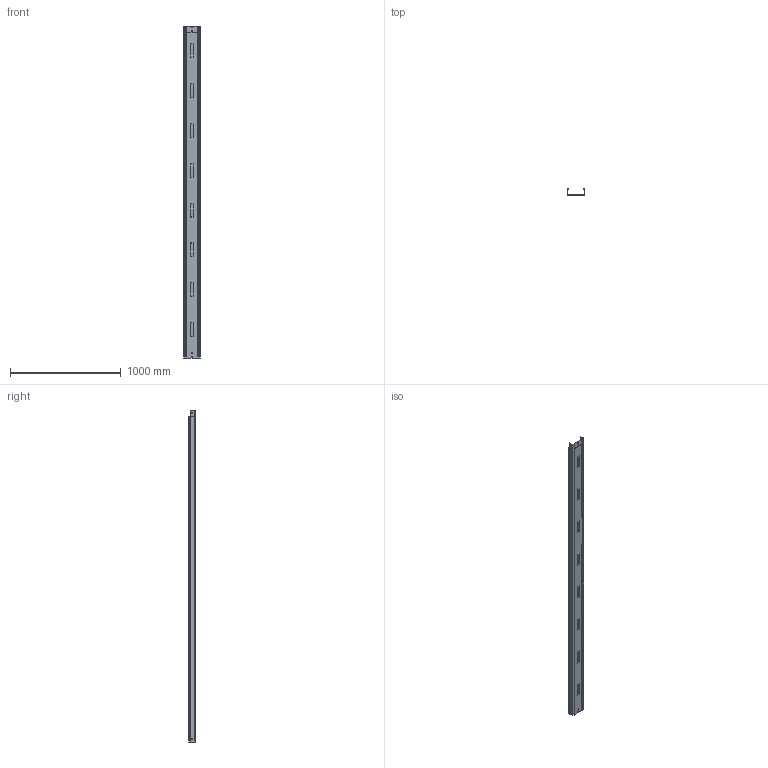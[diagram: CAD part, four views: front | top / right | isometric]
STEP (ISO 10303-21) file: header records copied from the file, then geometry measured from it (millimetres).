
FILE_DESCRIPTION (( 'STEP AP214' ), '1' );
FILE_NAME ('ERE-C 150x60.STEP', '2023-06-28T09:57:44', ( '' ), ( '' ), 'SwSTEP 2.0', 'SolidWorks 2022', '' );
FILE_SCHEMA (( 'AUTOMOTIVE_DESIGN' ));
Products named in the file (1): ERE-C 150x60
Bounding box: 150 x 60.8 x 3000 mm (x, y, z)
Surface area: 1690490.4 mm2 (no closed solid volume)
Topology: 0 solids, 3 shells, 9978 faces, 29446 edges, 19552 vertices
Faces by surface type: plane 9734, cylinder 156, torus 64, cone 24
Entity records: 325704 total; most frequent: CARTESIAN_POINT 59135, ORIENTED_EDGE 58788, DIRECTION 49818, EDGE_CURVE 29446, LINE 28932, VECTOR 28932, VERTEX_POINT 19552, AXIS2_PLACEMENT_3D 10443
